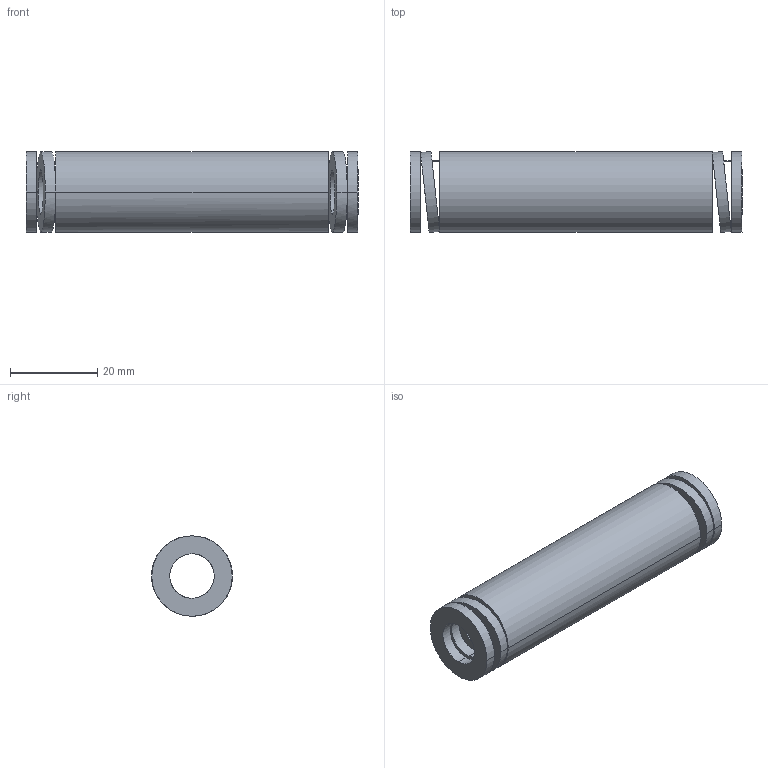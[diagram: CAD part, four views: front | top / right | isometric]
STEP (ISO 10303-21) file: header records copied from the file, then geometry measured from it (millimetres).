
FILE_DESCRIPTION(('CATIA V5 STEP Exchange'),'2;1');
FILE_NAME('C:\Users\Utente\Desktop\IO LAVORO\3D X SITO CF\X SITO\3D files 392B\392-B20-076.stp','2021-08-12T13:55:26+00:00',('none'),('none'),'CATIA Version 5 Release 20 GA (IN-10)','CATIA V5 STEP AP203','none');
FILE_SCHEMA(('CONFIG_CONTROL_DESIGN'));
Length unit declared in the file: millimetre
Products named in the file (1): 392-B20-076
Bounding box: 76 x 18.55 x 18.4 mm (x, y, z)
Volume: 13241.2 mm3; surface area: 8303.4 mm2
Topology: 1 solids, 1 shells, 38 faces, 92 edges, 64 vertices
Faces by surface type: cylinder 28, plane 10
Entity records: 1602 total; most frequent: CARTESIAN_POINT 721, ORIENTED_EDGE 184, DIRECTION 125, EDGE_CURVE 92, VERTEX_POINT 64, AXIS2_PLACEMENT_3D 60, EDGE_LOOP 56, B_SPLINE_CURVE_WITH_KNOTS 43
